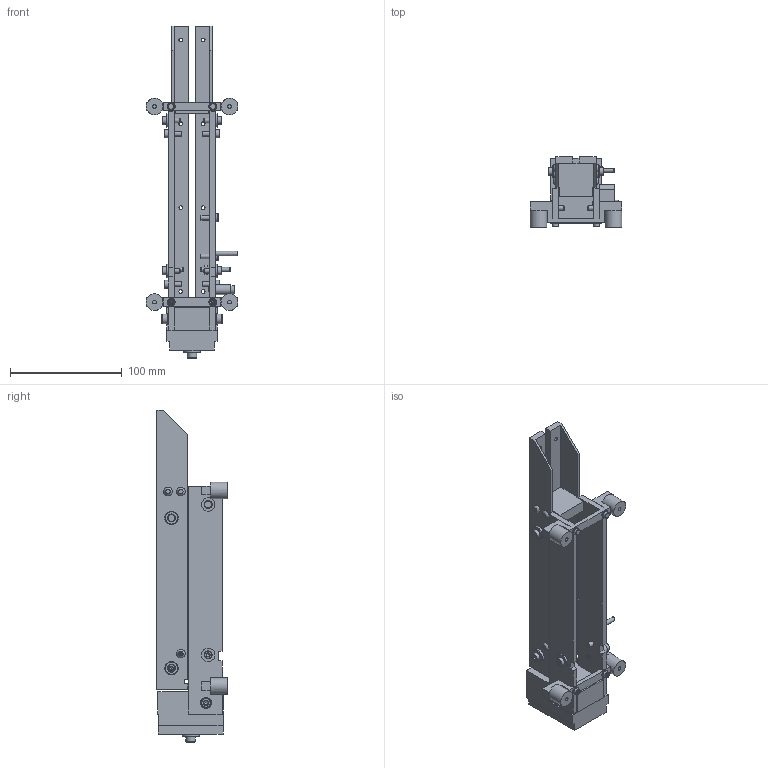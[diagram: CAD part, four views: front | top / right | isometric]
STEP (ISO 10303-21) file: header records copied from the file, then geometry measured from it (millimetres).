
FILE_DESCRIPTION(/* description */ ('STEP AP203'),/* implementation_level */ '2;1');
FILE_NAME(/* name */ 'Linearförderer SLL175-250 S CE 200V_50Hz',/* time_stamp */ '2024-09-29T16:47:01+02:00',/* author */ ('License CC BY-ND 4.0'),/* organization */ ('CADENAS'),/* preprocessor_version */ 'ST-DEVELOPER v19.3',/* originating_system */ 'PARTsolutions',/* authorisation */ ' ');
FILE_SCHEMA (('CONFIG_CONTROL_DESIGN'));
Length unit declared in the file: millimetre
Products named in the file (3): Linearförderer SLL175-250 S CE 200V/50Hz; Linearförderer SLL175-250 S CE 200V/50Hz_PART1; Linearförderer SLL175-250 S CE 200V/50Hz_PART2
Assembly tree (2 placements, depth 2):
  Linearförderer SLL175-250 S CE 200V/50Hz
    Linearförderer SLL175-250 S CE 200V/50Hz_PART1
    Linearförderer SLL175-250 S CE 200V/50Hz_PART2
Bounding box: 82.03 x 63 x 297 mm (x, y, z)
Volume: 253604.8 mm3; surface area: 97510.2 mm2
Topology: 2 solids, 2 shells, 594 faces, 1455 edges, 934 vertices
Faces by surface type: plane 373, cone 127, cylinder 70, torus 18, sphere 6
Full cylindrical faces by diameter (mm): 3.3 x12, 4 x16, 5.5 x4, 6.03 x1, 7 x15, 8.5 x3, 10 x2, 12 x10, 15 x5
Entity records: 16239 total; most frequent: CARTESIAN_POINT 3080, DIRECTION 2710, ORIENTED_EDGE 2486, EDGE_CURVE 1243, AXIS2_PLACEMENT_3D 970, VERTEX_POINT 856, FACE_BOUND 817, EDGE_LOOP 804
